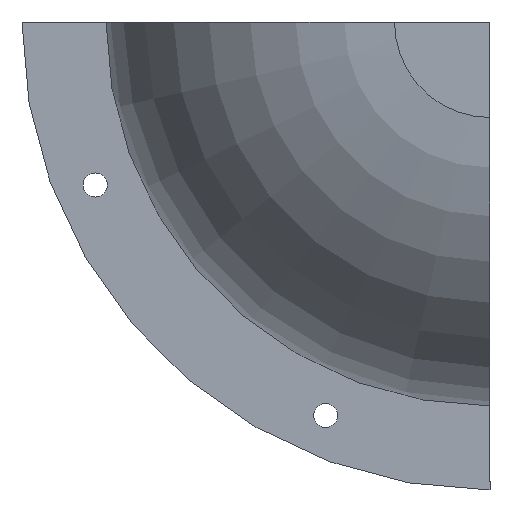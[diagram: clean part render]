
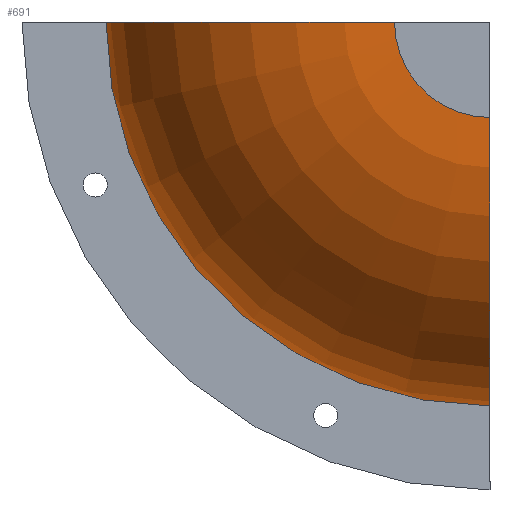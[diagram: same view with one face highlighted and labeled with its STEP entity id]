
A CAD part, front view. The second image highlights one B-rep face of the part: STEP entity #691.
In plain terms, the highlighted toroidal (fillet/blend) face has major radius 50.486 mm and minor radius 152.4 mm.
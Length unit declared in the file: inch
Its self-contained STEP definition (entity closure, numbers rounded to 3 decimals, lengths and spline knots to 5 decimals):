
#42 = DIRECTION ( 'NONE',  ( 0., 0., 1. ) ) ;
#43 = DIRECTION ( 'NONE',  ( -1., 0., 0. ) ) ;
#44 = CARTESIAN_POINT ( 'NONE',  ( 11.09694, -7.85355, -1.98762 ) ) ;
#45 = AXIS2_PLACEMENT_3D ( 'NONE', #44, #43, #42 ) ;
#46 = CIRCLE ( 'NONE', #45, 6. ) ;
#626 = EDGE_CURVE ( 'NONE', #627, #628, #1066, .T. ) ;
#627 = VERTEX_POINT ( 'NONE', #1067 ) ;
#628 = VERTEX_POINT ( 'NONE', #1124 ) ;
#691 = ADVANCED_FACE ( 'NONE', ( #1195 ), #1192, .T. ) ;
#692 = EDGE_LOOP ( 'NONE', ( #693, #697, #751, #752 ) ) ;
#693 = ORIENTED_EDGE ( 'NONE', *, *, #694, .T. ) ;
#694 = EDGE_CURVE ( 'NONE', #695, #696, #1252, .T. ) ;
#695 = VERTEX_POINT ( 'NONE', #1248 ) ;
#696 = VERTEX_POINT ( 'NONE', #1247 ) ;
#697 = ORIENTED_EDGE ( 'NONE', *, *, #698, .F. ) ;
#698 = EDGE_CURVE ( 'NONE', #628, #696, #1246, .T. ) ;
#751 = ORIENTED_EDGE ( 'NONE', *, *, #626, .F. ) ;
#752 = ORIENTED_EDGE ( 'NONE', *, *, #753, .T. ) ;
#753 = EDGE_CURVE ( 'NONE', #627, #695, #46, .T. ) ;
#1063 = DIRECTION ( 'NONE',  ( -1., 0., 0. ) ) ;
#1064 = DIRECTION ( 'NONE',  ( 0., 1., 0. ) ) ;
#1065 = AXIS2_PLACEMENT_3D ( 'NONE', #1073, #1064, #1063 ) ;
#1066 = CIRCLE ( 'NONE', #1065, 7.98762 ) ;
#1067 = CARTESIAN_POINT ( 'NONE',  ( 11.09694, -7.85355, -7.98762 ) ) ;
#1073 = CARTESIAN_POINT ( 'NONE',  ( 11.09694, -7.85355, 0. ) ) ;
#1124 = CARTESIAN_POINT ( 'NONE',  ( 3.10932, -7.85355, 0. ) ) ;
#1189 = DIRECTION ( 'NONE',  ( -1., 0., 0. ) ) ;
#1190 = DIRECTION ( 'NONE',  ( 0., 1., 0. ) ) ;
#1191 = AXIS2_PLACEMENT_3D ( 'NONE', #1194, #1190, #1189 ) ;
#1192 = TOROIDAL_SURFACE ( 'NONE', #1191, 1.98762, 6. ) ;
#1193 = CARTESIAN_POINT ( 'NONE',  ( 11.09694, -13.85355, 0. ) ) ;
#1194 = CARTESIAN_POINT ( 'NONE',  ( 11.09694, -7.85355, 0. ) ) ;
#1195 = FACE_OUTER_BOUND ( 'NONE', #692, .T. ) ;
#1242 = DIRECTION ( 'NONE',  ( 1., 0., 0. ) ) ;
#1243 = DIRECTION ( 'NONE',  ( 0., 0., 1. ) ) ;
#1244 = CARTESIAN_POINT ( 'NONE',  ( 9.10932, -7.85355, 0. ) ) ;
#1245 = AXIS2_PLACEMENT_3D ( 'NONE', #1244, #1243, #1242 ) ;
#1246 = CIRCLE ( 'NONE', #1245, 6. ) ;
#1247 = CARTESIAN_POINT ( 'NONE',  ( 9.10932, -13.85355, 0. ) ) ;
#1248 = CARTESIAN_POINT ( 'NONE',  ( 11.09694, -13.85355, -1.98762 ) ) ;
#1249 = DIRECTION ( 'NONE',  ( -1., 0., 0. ) ) ;
#1250 = DIRECTION ( 'NONE',  ( 0., 1., 0. ) ) ;
#1251 = AXIS2_PLACEMENT_3D ( 'NONE', #1193, #1250, #1249 ) ;
#1252 = CIRCLE ( 'NONE', #1251, 1.98762 ) ;
